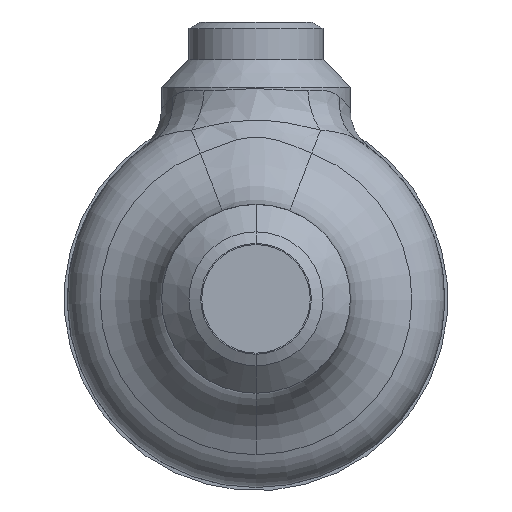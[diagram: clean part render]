
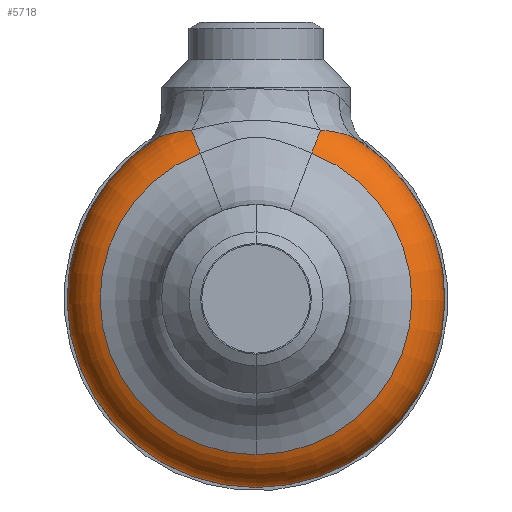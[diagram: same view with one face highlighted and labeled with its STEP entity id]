
A CAD part, front view. The second image highlights one B-rep face of the part: STEP entity #5718.
In plain terms, the highlighted toroidal (fillet/blend) face has major radius 22 mm and minor radius 8 mm.
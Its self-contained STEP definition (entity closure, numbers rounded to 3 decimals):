
#980 = VERTEX_POINT ( 'NONE', #12237 ) ;
#1187 = EDGE_CURVE ( 'NONE', #980, #7375, #12398, .T. ) ;
#1932 = ORIENTED_EDGE ( 'NONE', *, *, #10452, .F. ) ;
#2633 = CARTESIAN_POINT ( 'NONE',  ( 8.849, -54.5, 23.149 ) ) ;
#4178 = CARTESIAN_POINT ( 'NONE',  ( -8.849, -54.5, 23.149 ) ) ;
#4202 = CIRCLE ( 'NONE', #4203, 24.783 ) ;
#4203 = AXIS2_PLACEMENT_3D ( 'NONE', #4204, #4205, #4206 ) ;
#4204 = CARTESIAN_POINT ( 'NONE',  ( 0., -54.5, 0. ) ) ;
#4205 = DIRECTION ( 'NONE',  ( 0., 1., 0. ) ) ;
#4206 = DIRECTION ( 'NONE',  ( 0., 0., 1. ) ) ;
#4229 = B_SPLINE_CURVE_WITH_KNOTS ( 'NONE', 3,
 ( #4230, #4231, #4232, #4233, #4234, #4235, #4236, #4237, #4238, #4239 ),
 .UNSPECIFIED., .F., .F.,
 ( 4, 2, 2, 2, 4 ),
 ( 0., 0.004, 0.005, 0.006, 0.008 ),
 .UNSPECIFIED. ) ;
#4230 = CARTESIAN_POINT ( 'NONE',  ( -10.252, -51.355, 26.818 ) ) ;
#4231 = CARTESIAN_POINT ( 'NONE',  ( -11.417, -50.852, 26.722 ) ) ;
#4232 = CARTESIAN_POINT ( 'NONE',  ( -12.51, -50.241, 26.575 ) ) ;
#4233 = CARTESIAN_POINT ( 'NONE',  ( -13.764, -49.322, 26.272 ) ) ;
#4234 = CARTESIAN_POINT ( 'NONE',  ( -14.01, -49.13, 26.205 ) ) ;
#4235 = CARTESIAN_POINT ( 'NONE',  ( -14.485, -48.733, 26.058 ) ) ;
#4236 = CARTESIAN_POINT ( 'NONE',  ( -14.714, -48.529, 25.979 ) ) ;
#4237 = CARTESIAN_POINT ( 'NONE',  ( -15.376, -47.901, 25.718 ) ) ;
#4238 = CARTESIAN_POINT ( 'NONE',  ( -15.783, -47.46, 25.517 ) ) ;
#4239 = CARTESIAN_POINT ( 'NONE',  ( -16.155, -47., 25.279 ) ) ;
#4332 = EDGE_CURVE ( 'NONE', #5828, #5318, #5434, .T. ) ;
#4968 = CARTESIAN_POINT ( 'NONE',  ( 0., -54.5, -24.783 ) ) ;
#4977 = CARTESIAN_POINT ( 'NONE',  ( -16.155, -47., 25.279 ) ) ;
#5102 = CIRCLE ( 'NONE', #5103, 24.783 ) ;
#5103 = AXIS2_PLACEMENT_3D ( 'NONE', #5104, #5105, #5106 ) ;
#5104 = CARTESIAN_POINT ( 'NONE',  ( 0., -54.5, 0. ) ) ;
#5105 = DIRECTION ( 'NONE',  ( 0., 1., 0. ) ) ;
#5106 = DIRECTION ( 'NONE',  ( 0., 0., 1. ) ) ;
#5311 = CARTESIAN_POINT ( 'NONE',  ( 0., -47., -30. ) ) ;
#5318 = VERTEX_POINT ( 'NONE', #12200 ) ;
#5428 = CARTESIAN_POINT ( 'NONE',  ( 16.155, -47., 25.279 ) ) ;
#5434 = CIRCLE ( 'NONE', #5435, 8. ) ;
#5435 = AXIS2_PLACEMENT_3D ( 'NONE', #5436, #5437, #5438 ) ;
#5436 = CARTESIAN_POINT ( 'NONE',  ( -7.856, -47., 20.55 ) ) ;
#5437 = DIRECTION ( 'NONE',  ( -0.934, 0., -0.357 ) ) ;
#5438 = DIRECTION ( 'NONE',  ( -0.357, 0., 0.934 ) ) ;
#5718 = ADVANCED_FACE ( 'NONE', ( #12484 ), #12485, .T. ) ;
#5828 = VERTEX_POINT ( 'NONE', #4178 ) ;
#5837 = EDGE_CURVE ( 'NONE', #5318, #8620, #4229, .T. ) ;
#5851 = ORIENTED_EDGE ( 'NONE', *, *, #5837, .T. ) ;
#5882 = ORIENTED_EDGE ( 'NONE', *, *, #4332, .T. ) ;
#5898 = VERTEX_POINT ( 'NONE', #4968 ) ;
#5912 = EDGE_CURVE ( 'NONE', #5898, #5828, #5102, .T. ) ;
#5931 = VERTEX_POINT ( 'NONE', #5311 ) ;
#5934 = ORIENTED_EDGE ( 'NONE', *, *, #5912, .T. ) ;
#5948 = VERTEX_POINT ( 'NONE', #5428 ) ;
#5963 = EDGE_CURVE ( 'NONE', #5948, #5931, #8976, .T. ) ;
#5972 = ORIENTED_EDGE ( 'NONE', *, *, #7581, .T. ) ;
#6005 = ORIENTED_EDGE ( 'NONE', *, *, #1187, .T. ) ;
#6206 = EDGE_CURVE ( 'NONE', #5948, #980, #12314, .T. ) ;
#6548 = ORIENTED_EDGE ( 'NONE', *, *, #6206, .T. ) ;
#7033 = ORIENTED_EDGE ( 'NONE', *, *, #5963, .F. ) ;
#7375 = VERTEX_POINT ( 'NONE', #2633 ) ;
#7512 = EDGE_LOOP ( 'NONE', ( #7033, #6548, #6005, #5972, #5934, #5882, #5851, #1932 ) ) ;
#7581 = EDGE_CURVE ( 'NONE', #7375, #5898, #4202, .T. ) ;
#8620 = VERTEX_POINT ( 'NONE', #4977 ) ;
#8976 = CIRCLE ( 'NONE', #8977, 30. ) ;
#8977 = AXIS2_PLACEMENT_3D ( 'NONE', #8978, #8979, #8980 ) ;
#8978 = CARTESIAN_POINT ( 'NONE',  ( 0., -47., 0. ) ) ;
#8979 = DIRECTION ( 'NONE',  ( 0., 1., 0. ) ) ;
#8980 = DIRECTION ( 'NONE',  ( 0., 0., 1. ) ) ;
#10452 = EDGE_CURVE ( 'NONE', #5931, #8620, #12232, .T. ) ;
#12200 = CARTESIAN_POINT ( 'NONE',  ( -10.252, -51.355, 26.818 ) ) ;
#12232 = CIRCLE ( 'NONE', #12233, 30. ) ;
#12233 = AXIS2_PLACEMENT_3D ( 'NONE', #12234, #12235, #12236 ) ;
#12234 = CARTESIAN_POINT ( 'NONE',  ( 0., -47., 0. ) ) ;
#12235 = DIRECTION ( 'NONE',  ( 0., 1., 0. ) ) ;
#12236 = DIRECTION ( 'NONE',  ( 0., 0., 1. ) ) ;
#12237 = CARTESIAN_POINT ( 'NONE',  ( 10.252, -51.355, 26.818 ) ) ;
#12314 = B_SPLINE_CURVE_WITH_KNOTS ( 'NONE', 3,
 ( #12315, #12316, #12317, #12318, #12319, #12320 ),
 .UNSPECIFIED., .F., .F.,
 ( 4, 2, 4 ),
 ( 0., 0.004, 0.008 ),
 .UNSPECIFIED. ) ;
#12315 = CARTESIAN_POINT ( 'NONE',  ( 16.155, -47., 25.279 ) ) ;
#12316 = CARTESIAN_POINT ( 'NONE',  ( 15.41, -47.92, 25.755 ) ) ;
#12317 = CARTESIAN_POINT ( 'NONE',  ( 14.53, -48.759, 26.086 ) ) ;
#12318 = CARTESIAN_POINT ( 'NONE',  ( 12.515, -50.238, 26.574 ) ) ;
#12319 = CARTESIAN_POINT ( 'NONE',  ( 11.417, -50.852, 26.722 ) ) ;
#12320 = CARTESIAN_POINT ( 'NONE',  ( 10.252, -51.355, 26.818 ) ) ;
#12398 = CIRCLE ( 'NONE', #12399, 8. ) ;
#12399 = AXIS2_PLACEMENT_3D ( 'NONE', #12400, #12401, #12402 ) ;
#12400 = CARTESIAN_POINT ( 'NONE',  ( 7.856, -47., 20.55 ) ) ;
#12401 = DIRECTION ( 'NONE',  ( 0.934, 0., -0.357 ) ) ;
#12402 = DIRECTION ( 'NONE',  ( 0.357, 0., 0.934 ) ) ;
#12484 = FACE_OUTER_BOUND ( 'NONE', #7512, .T. ) ;
#12485 = TOROIDAL_SURFACE ( 'NONE', #12486, 22., 8. ) ;
#12486 = AXIS2_PLACEMENT_3D ( 'NONE', #12487, #12488, #12489 ) ;
#12487 = CARTESIAN_POINT ( 'NONE',  ( 0., -47., 0. ) ) ;
#12488 = DIRECTION ( 'NONE',  ( 0., 1., 0. ) ) ;
#12489 = DIRECTION ( 'NONE',  ( 0., 0., 1. ) ) ;
